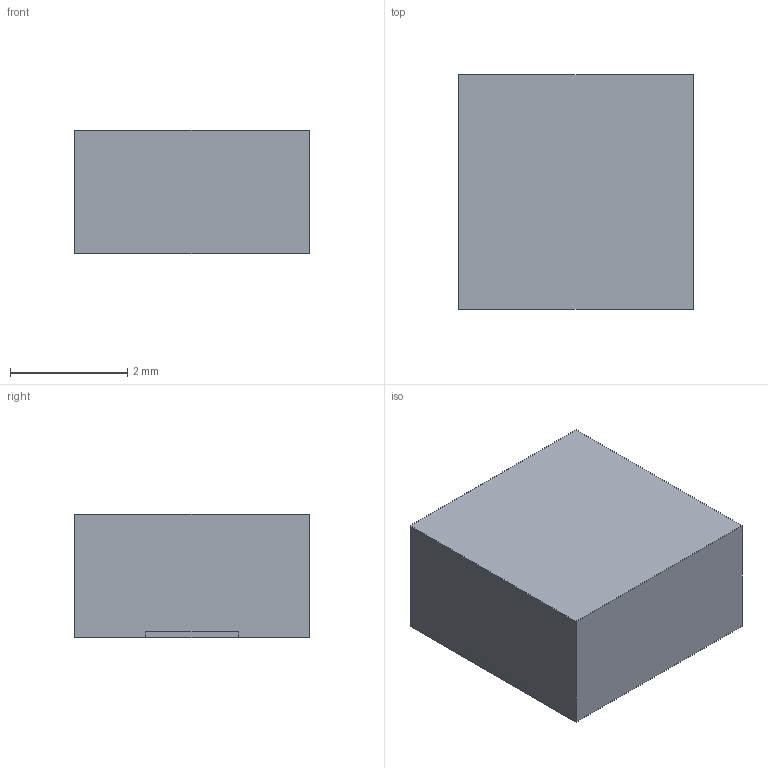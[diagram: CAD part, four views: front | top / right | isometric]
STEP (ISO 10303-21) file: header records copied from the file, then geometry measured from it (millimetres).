
FILE_DESCRIPTION(('Open CASCADE Model'),'2;1');
FILE_NAME('Open CASCADE Shape Model','2026-10-04T11:29:43',('Author'),( 'Open CASCADE'),'Open CASCADE STEP processor 7.9','Open CASCADE 7.9' ,'Unknown');
FILE_SCHEMA(('AUTOMOTIVE_DESIGN { 1 0 10303 214 1 1 1 1 }'));
Length unit declared in the file: millimetre
Products named in the file (3): Coilcraft_XFL4020_102_Drawing_Envelope; package_body; terminals
Assembly tree (2 placements, depth 2):
  Coilcraft_XFL4020_102_Drawing_Envelope
    package_body
    terminals
Bounding box: 4 x 4 x 2.1 mm (x, y, z)
Volume: 33.6 mm3; surface area: 72 mm2
Topology: 3 solids, 3 shells, 26 faces, 60 edges, 40 vertices
Faces by surface type: plane 26
Entity records: 1571 total; most frequent: CARTESIAN_POINT 249, DIRECTION 238, LINE 180, VECTOR 180, ORIENTED_EDGE 120, PCURVE 120, DEFINITIONAL_REPRESENTATION 120, EDGE_CURVE 60
